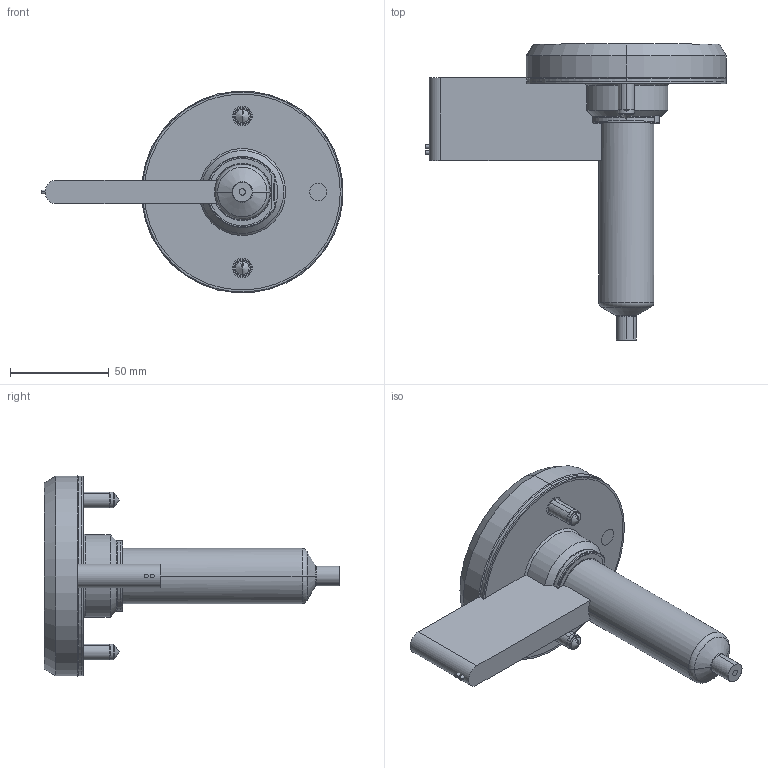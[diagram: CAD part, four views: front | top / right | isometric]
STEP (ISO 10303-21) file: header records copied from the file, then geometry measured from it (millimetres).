
FILE_DESCRIPTION (( 'STEP AP214' ), '1' );
FILE_NAME ('SOHSB6100-SOFBOP06EX.STEP', '2024-11-29T06:29:54', ( '' ), ( '' ), 'SwSTEP 2.0', 'SolidWorks 2022', '' );
FILE_SCHEMA (( 'AUTOMOTIVE_DESIGN' ));
Length unit declared in the file: millimetre
Products named in the file (11): EcoONE-HSB06-06006(A)_SONHC06; EcoONE-HSB06-Open Gate Cut-out Details_Ext Sprue Gate or Full Body Gate; SOHSB6100-SOFBOP06EX; EcoONE-HSB06-Open Gate Extended Full Body Retainer Tip_SOFRT0602; hexagon socket head cap screws gb_GB_FASTENER_SCREWS_HSHCS M8X25-C; EcoONE-HSB06-Point Gate Needle Tip-Standard_SOPGN0601; EcoONE-HSB06-00002(A)_SOHSBLR06; EcoONE-HSB06-06005_SOTC10200-J; EcoONE-HSB06-06003(A)_SOHSBNB6100; EcoONE-HSB06-Open Gate Extended Full Body Standad Tip Assembly_SOFBOP06EX; EcoONE-HSB06-06004_SONH18095
Assembly tree (12 placements, depth 3):
  SOHSB6100-SOFBOP06EX
    EcoONE-HSB06-06003(A)_SOHSBNB6100
    EcoONE-HSB06-06004_SONH18095
    EcoONE-HSB06-06005_SOTC10200-J
    EcoONE-HSB06-06006(A)_SONHC06  x2
    EcoONE-HSB06-00002(A)_SOHSBLR06
    hexagon socket head cap screws gb_GB_FASTENER_SCREWS_HSHCS M8X25-C  x2
    EcoONE-HSB06-Open Gate Extended Full Body Standad Tip Assembly_SOFBOP06EX
      EcoONE-HSB06-Open Gate Extended Full Body Retainer Tip_SOFRT0602
      EcoONE-HSB06-Point Gate Needle Tip-Standard_SOPGN0601
    EcoONE-HSB06-Open Gate Cut-out Details_Ext Sprue Gate or Full Body Gate
Bounding box: 153.01 x 150 x 102.14 mm (x, y, z)
Volume: 328080 mm3; surface area: 95012.5 mm2
Topology: 11 solids, 11 shells, 489 faces, 1232 edges, 776 vertices
Faces by surface type: cylinder 152, plane 132, bspline 96, cone 79, torus 22, sphere 8
Entity records: 28244 total; most frequent: CARTESIAN_POINT 17311, ORIENTED_EDGE 2244, DIRECTION 1893, EDGE_CURVE 1122, AXIS2_PLACEMENT_3D 765, VERTEX_POINT 713, EDGE_LOOP 487, ADVANCED_FACE 448
